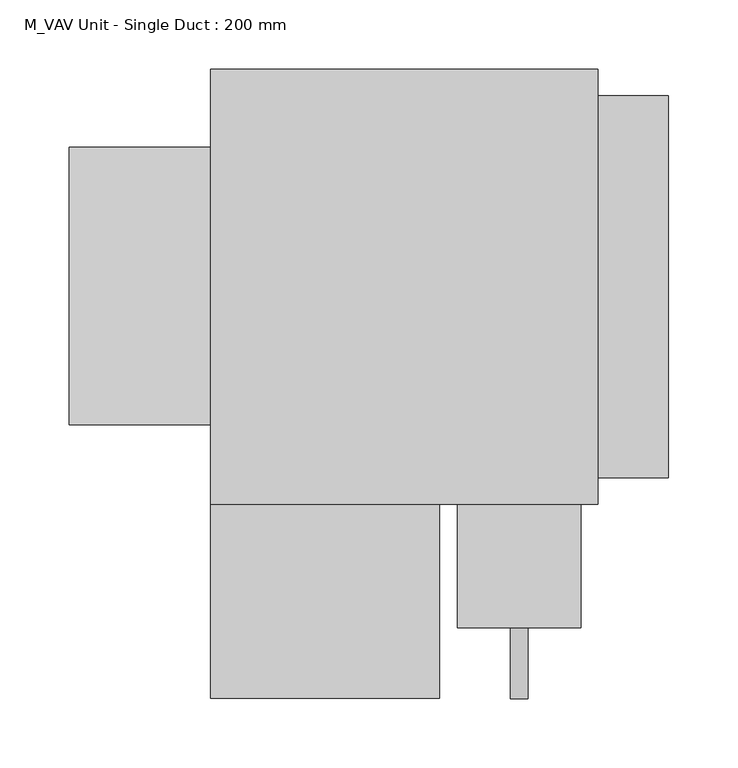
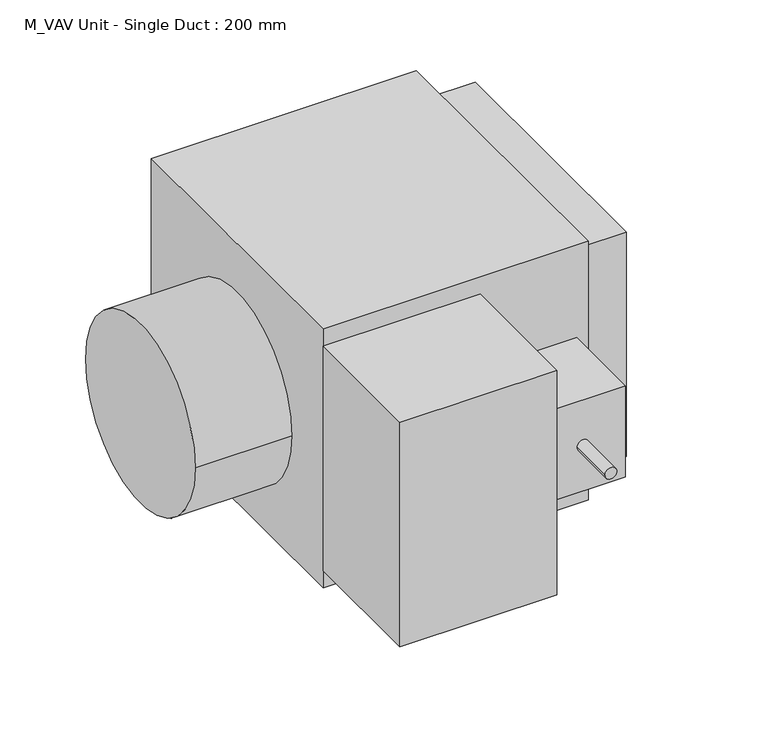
"""IFC4 building model written with IfcOpenShell, lengths in millimetres: proxy geometry, M_VAV Unit - Single Duct : 200 mm."""

from ifc_helpers import new_model, si_unit, frame, origin, origin_with_axes, place, context, project, spatial, polyline, circle_curve, outline, extrude, faceted_brep, source, transform, mapped, element, save
from ifc_brep_helpers import plane_surface, cylinder_surface, advanced_brep


def m_vav_unit_single_duct_200_mm_f9143229(model_context):
    return source(origin(), model_context, "Body", "SolidModel", [
        advanced_brep(
        [(266.7, -245.45, 185.325), (177.8, -245.45, 185.325), (177.8, -245.45, 83.725), (266.7, -245.45, 83.725), (228.6, -245.45, 134.525), (215.9, -245.45, 134.525), (266.7, -156.55, 185.325), (266.7, -156.55, 83.725), (177.8, -156.55, 83.725), (177.8, -156.55, 185.325), (215.9, -296.25, 134.525), (228.6, -296.25, 134.525)],
        [
            (0, 1),
            (1, 2),
            (2, 3),
            (3, 0),
            (4, 5, circle_curve(frame((222.25, -245.45, 134.525), z_axis=(0.0, 1.0, 0.0), x_axis=(1.0, 0.0, 0.0)), 6.35)),
            (5, 4, circle_curve(frame((222.25, -245.45, 134.525), z_axis=(0.0, 1.0, 0.0), x_axis=(1.0, 0.0, 0.0)), 6.35)),
            (6, 7),
            (7, 8),
            (8, 9),
            (9, 6),
            (0, 6),
            (9, 1),
            (8, 2),
            (7, 3),
            (10, 11, circle_curve(frame((222.25, -296.25, 134.525), z_axis=(0.0, -1.0, 0.0), x_axis=(1.0, 0.0, 0.0)), 6.35)),
            (11, 10, circle_curve(frame((222.25, -296.25, 134.525), z_axis=(0.0, -1.0, 0.0), x_axis=(1.0, 0.0, 0.0)), 6.35)),
            (10, 5),
            (4, 11),
        ],
        [
            plane_surface(frame((177.8, -245.45, 185.325), z_axis=(0.0, -1.0, 0.0), x_axis=(-1.0, 0.0, 0.0))),
            plane_surface(frame((177.8, -156.55, 185.325), z_axis=(0.0, 1.0, 0.0), x_axis=(1.0, 0.0, 0.0))),
            plane_surface(frame((266.7, -245.45, 185.325), z_axis=(0.0, 0.0, 1.0), x_axis=(0.0, 1.0, 0.0))),
            plane_surface(frame((177.8, -245.45, 185.325), z_axis=(-1.0, 0.0, 0.0), x_axis=(0.0, 1.0, 0.0))),
            plane_surface(frame((177.8, -245.45, 83.725), z_axis=(0.0, 0.0, -1.0), x_axis=(0.0, 1.0, 0.0))),
            plane_surface(frame((266.7, -245.45, 83.725), z_axis=(1.0, 0.0, 0.0), x_axis=(0.0, 1.0, 0.0))),
            plane_surface(frame((228.6, -296.25, 134.525), z_axis=(0.0, -1.0, 0.0), x_axis=(0.0, 0.0, 1.0))),
            cylinder_surface(frame((222.25, -156.55, 134.525), z_axis=(0.0, -1.0, 0.0), x_axis=(1.0, 0.0, 0.0)), 6.35),
        ],
        [
            (0, [[1, 2, 3, 4], [5, 6]]),
            (1, [[7, 8, 9, 10]]),
            (2, [[-1, 11, -10, 12]]),
            (3, [[-2, -12, -9, 13]]),
            (4, [[-3, -13, -8, 14]]),
            (5, [[-4, -14, -7, -11]]),
            (6, [[15, 16]]),
            (7, [[-15, 17, -5, 18]]),
            (7, [[-16, -18, -6, -17]]),
        ],
    ),
        faceted_brep([(329.8, 137.5, 269.05), (329.8, -137.5, 269.05), (329.8, -137.5, 19.05), (329.8, 137.5, 19.05), (279.0, 137.5, 269.05), (279.0, 137.5, 19.05), (279.0, -137.5, 19.05), (279.0, -137.5, 269.05)], [[[0, 1, 2, 3]], [[4, 5, 6, 7]], [[1, 0, 4, 7]], [[2, 1, 7, 6]], [[3, 2, 6, 5]], [[0, 3, 5, 4]]]),
        advanced_brep(
        [(0.0, -99.35, 134.525), (0.0, 100.65, 134.525), (-101.6, -99.35, 134.525), (-101.6, 100.65, 134.525)],
        [
            (0, 1, circle_curve(frame((0.0, 0.65, 134.525), z_axis=(1.0, 0.0, 0.0), x_axis=(0.0, 1.0, 0.0)), 100.0)),
            (1, 0, circle_curve(frame((0.0, 0.65, 134.525), z_axis=(1.0, 0.0, 0.0), x_axis=(0.0, 1.0, 0.0)), 100.0)),
            (2, 3, circle_curve(frame((-101.6, 0.65, 134.525), z_axis=(-1.0, 0.0, 0.0), x_axis=(0.0, 1.0, 0.0)), 100.0)),
            (3, 2, circle_curve(frame((-101.6, 0.65, 134.525), z_axis=(-1.0, 0.0, 0.0), x_axis=(0.0, 1.0, 0.0)), 100.0)),
            (0, 2),
            (3, 1),
        ],
        [
            plane_surface(frame((0.0, 100.65, 134.525), z_axis=(1.0, 0.0, 0.0), x_axis=(0.0, 0.0, 1.0))),
            plane_surface(frame((-101.6, 100.65, 134.525), z_axis=(-1.0, 0.0, 0.0), x_axis=(0.0, 0.0, -1.0))),
            cylinder_surface(frame((-101.6, 0.65, 134.525), z_axis=(1.0, 0.0, 0.0), x_axis=(0.0, 1.0, 0.0)), 100.0),
        ],
        [
            (0, [[1, 2]]),
            (1, [[3, 4]]),
            (2, [[-1, 5, -4, 6]]),
            (2, [[-2, -6, -3, -5]]),
        ],
    ),
        extrude(outline(polyline([(165.1, -296.25), (0.0, -296.25), (0.0, -156.55), (165.1, -156.55), (165.1, -296.25)])), frame((0.0, 0.0, 19.05), z_axis=(0.0, 0.0, 1.0), x_axis=(1.0, 0.0, 0.0)), (0.0, 0.0, 1.0), 250.0),
        extrude(outline(polyline([(279.0, 156.55), (279.0, -156.55), (0.0, -156.55), (0.0, 156.55), (279.0, 156.55)])), origin_with_axes(), (0.0, 0.0, 1.0), 288.1),
    ])


if __name__ == "__main__":
    model = new_model("IFC4")
    model_context = context("Model", 3, world=origin())
    ifc_project = project(units=[si_unit("LENGTHUNIT", "METRE", prefix="MILLI")], contexts=[model_context])
    site = spatial("IfcSite", under=ifc_project)
    building = spatial("IfcBuilding", under=site)
    placement = place(None, origin())
    m_vav_unit_single_duct_200_mm_shape = m_vav_unit_single_duct_200_mm_f9143229(model_context)
    element("IfcBuildingElementProxy", 1, Name="M_VAV Unit - Single Duct : 200 mm", ObjectType="M_VAV Unit - Single Duct : 200 mm", at=placement, inside=building, context=model_context, shape_type="MappedRepresentation", body=[
        mapped(m_vav_unit_single_duct_200_mm_shape, transform((0.0, 0.0, 0.0), x_axis=(1.0, 0.0, 0.0), y_axis=(0.0, 1.0, 0.0), z_axis=(0.0, 0.0, 1.0))),
    ])
    save(model, "model.ifc")
